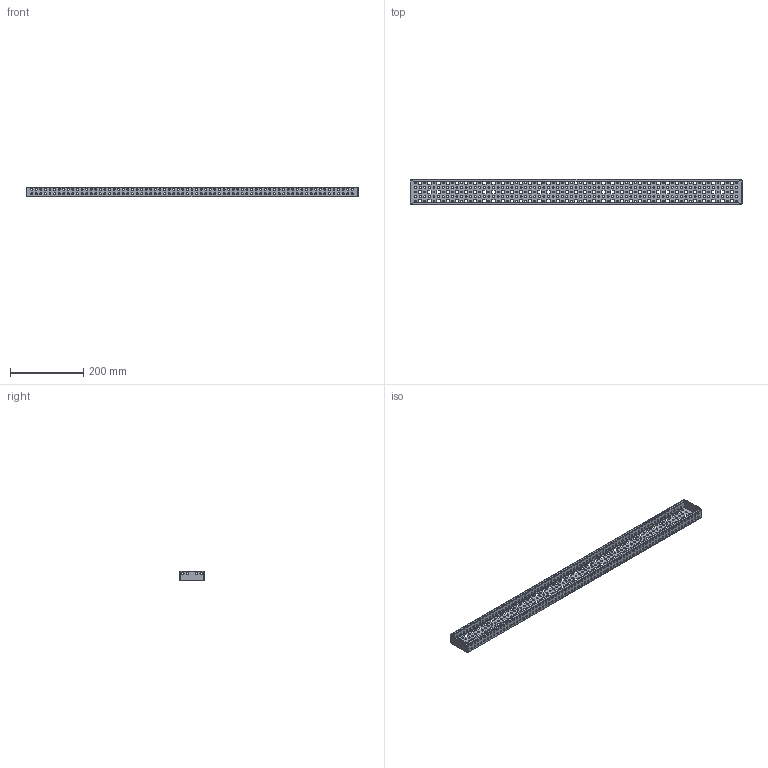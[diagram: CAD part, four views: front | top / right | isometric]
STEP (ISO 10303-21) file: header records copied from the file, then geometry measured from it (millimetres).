
FILE_DESCRIPTION (( 'STEP AP214' ), '1' );
FILE_NAME ('YKM40D-FO-VRÂ-100 Ðåéêà ìîíòàæíàÿ, òèï Â.STEP', '2025-08-14T07:20:29', ( '' ), ( '' ), 'SwSTEP 2.0', 'SolidWorks 2023', '' );
FILE_SCHEMA (( 'AUTOMOTIVE_DESIGN' ));
Length unit declared in the file: millimetre
Products named in the file (1): YKM40D-FO-VRВ-100 Рейка монтажная, тип В
Bounding box: 906 x 69 x 27 mm (x, y, z)
Volume: 150204.5 mm3; surface area: 219040.3 mm2
Topology: 1 solids, 1 shells, 1550 faces, 4636 edges, 3088 vertices
Faces by surface type: cylinder 1084, plane 466
Entity records: 55815 total; most frequent: DIRECTION 9906, CARTESIAN_POINT 9275, ORIENTED_EDGE 9272, EDGE_CURVE 4636, AXIS2_PLACEMENT_3D 3719, VERTEX_POINT 3088, EDGE_LOOP 2844, LINE 2468
